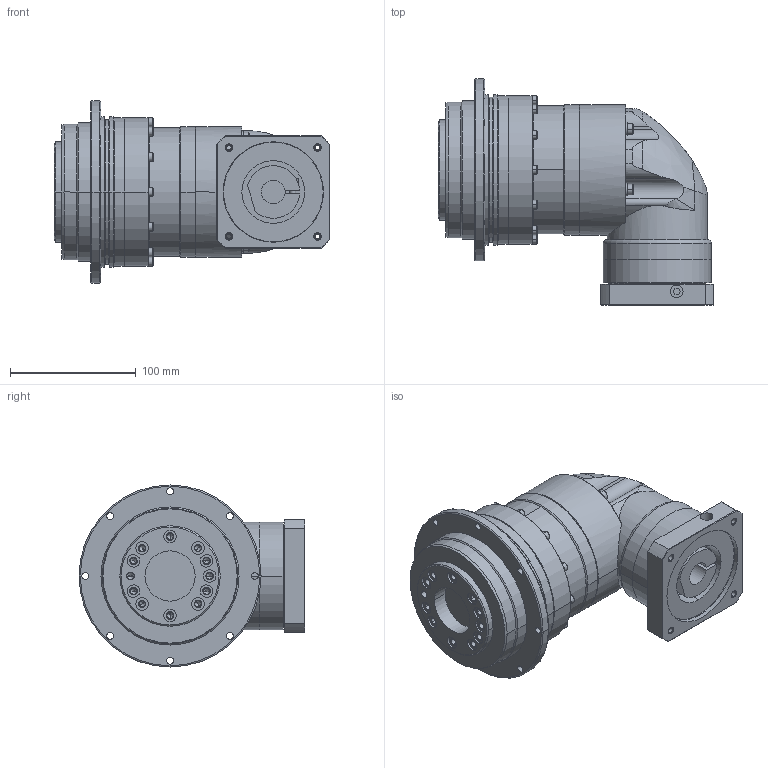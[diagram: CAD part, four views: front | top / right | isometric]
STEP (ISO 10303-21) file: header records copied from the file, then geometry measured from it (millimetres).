
FILE_DESCRIPTION((''),'2;1');
FILE_NAME('ADR1102-P4130303_ASM','2006-04-21T',('D00036'),(''),'PRO/ENGINEER BY PARAMETRIC TECHNOLOGY CORPORATION, 2001280','PRO/ENGINEER BY PARAMETRIC TECHNOLOGY CORPORATION, 2001280','');
FILE_SCHEMA(('CONFIG_CONTROL_DESIGN'));
Length unit declared in the file: millimetre
Products named in the file (11): AD110-2; PH240001; 220120512; AH_RING_GEAR-SET2-4_ASM; PD130001; 233100003; 220100610; HOUSING-SET-3_ASM; PK830001; P4130303; ADR1102-P4130303_ASM
Assembly tree (27 placements, depth 3):
  ADR1102-P4130303_ASM
    AD110-2
    AH_RING_GEAR-SET2-4_ASM
      PH240001
      220120512  x12
    HOUSING-SET-3_ASM
      PD130001
      233100003  x4
      220100610  x4
    PK830001
    P4130303
Bounding box: 219.5 x 180 x 145 mm (x, y, z)
Volume: 1983294.8 mm3; surface area: 226173.4 mm2
Topology: 25 solids, 68 shells, 1165 faces, 2632 edges, 1582 vertices
Faces by surface type: cylinder 506, plane 376, cone 208, torus 59, bspline 16
Entity records: 21357 total; most frequent: CARTESIAN_POINT 4459, DIRECTION 3899, ORIENTED_EDGE 3008, AXIS2_PLACEMENT_3D 1639, EDGE_CURVE 1590, VERTEX_POINT 1026, CIRCLE 886, EDGE_LOOP 882
